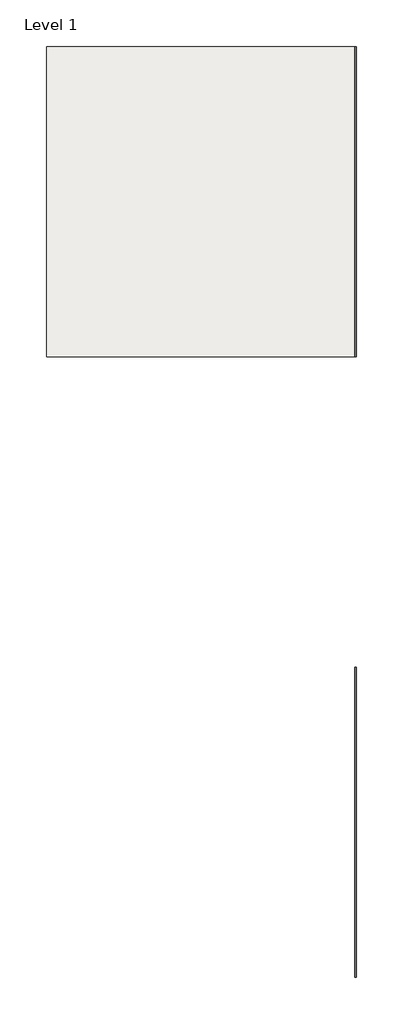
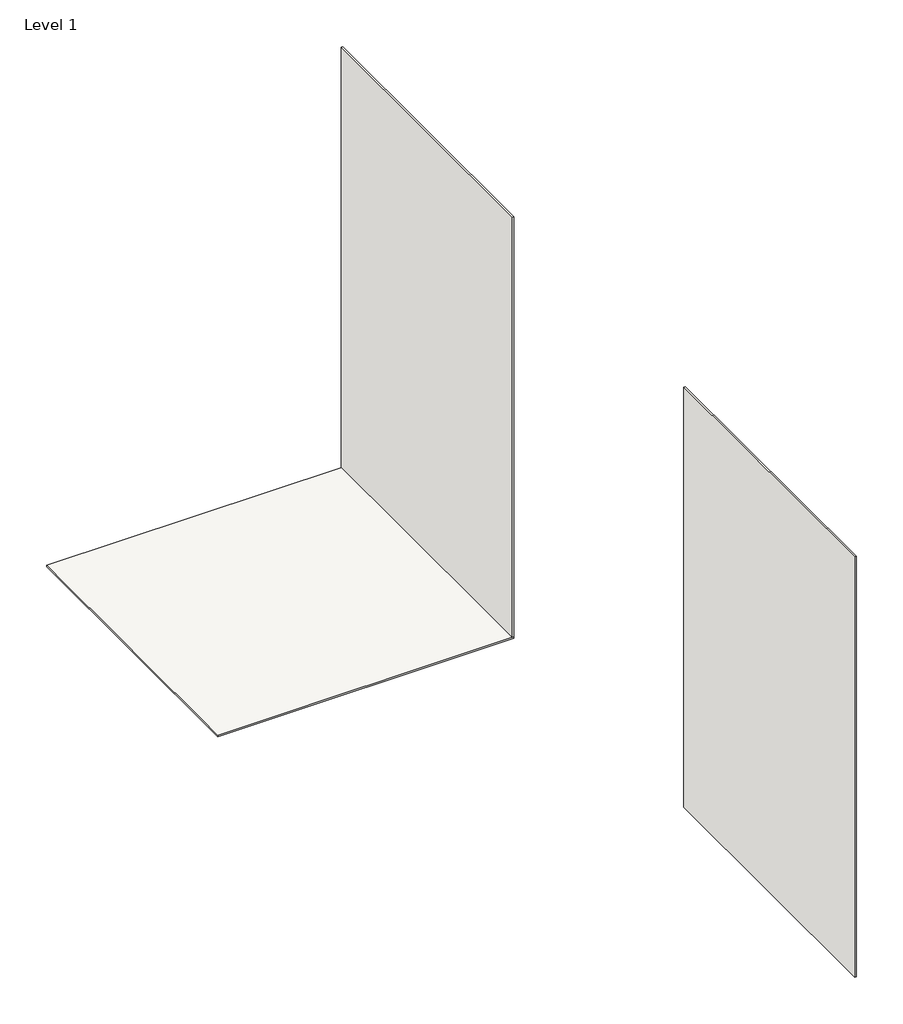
# One storey: 3 coverings.
"""IFC4 building model written with IfcOpenShell, lengths in millimetres."""

from ifc_helpers import new_model, si_unit, frame, origin, origin_with_axes, place, context, project, spatial, polyline, outline, extrude, element, save

model = new_model("IFC4")

# Units and contexts
model_context = context("Model", 3, world=origin())
ifc_project = project(units=[si_unit("LENGTHUNIT", "METRE", prefix="MILLI")], contexts=[model_context])

# Site, building, storey
site = spatial("IfcSite", under=ifc_project)
building = spatial("IfcBuilding", under=site)
storey = spatial("IfcBuildingStorey", under=building, Name="Level 1", Elevation=0.0)

# Coverings
placement = place(None, origin())
element("IfcCovering", 1, ObjectType="PGR_Porcelanosa_CeramicTiles_Travertino_Medici-450x1200mm-100190496", at=placement, inside=storey, context=model_context, shape_type="SweptSolid", body=[
    extrude(outline(polyline([(3516.7774266, -8501.9826748), (3516.7774266, -6501.9826748), (3527.0774266, -6501.9826748), (3527.0774266, -8501.9826748), (3516.7774266, -8501.9826748)])), origin_with_axes(), (0.0, 0.0, 1.0), 3000.0),
])
element("IfcCovering", 2, ObjectType="PGR_Porcelanosa_CeramicTiles_Travertino_Medici-596x596mm-100191337", at=placement, inside=storey, context=model_context, shape_type="SweptSolid", body=[
    extrude(outline(polyline([(3527.0774266, -4501.9826748), (1527.0774266, -4501.9826748), (1527.0774266, -2501.9826748), (3527.0774266, -2501.9826748), (3527.0774266, -4501.9826748)])), frame((0.0, 0.0, -10.3), z_axis=(0.0, 0.0, 1.0), x_axis=(1.0, 0.0, 0.0)), (0.0, 0.0, 1.0), 10.3),
])
element("IfcCovering", 3, ObjectType="PGR_Porcelanosa_CeramicTiles_Travertino_Medici-596x596mm-100191337", at=placement, inside=storey, context=model_context, shape_type="SweptSolid", body=[
    extrude(outline(polyline([(3516.7774266, -4501.9826748), (3516.7774266, -2501.9826748), (3527.0774266, -2501.9826748), (3527.0774266, -4501.9826748), (3516.7774266, -4501.9826748)])), origin_with_axes(), (0.0, 0.0, 1.0), 3000.0),
])

save(model, "model.ifc")
